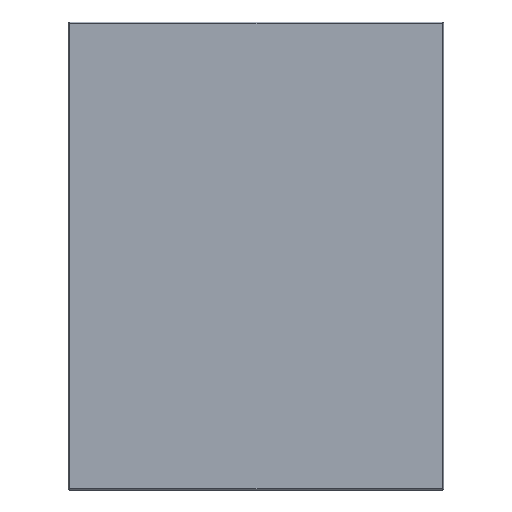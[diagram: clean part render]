
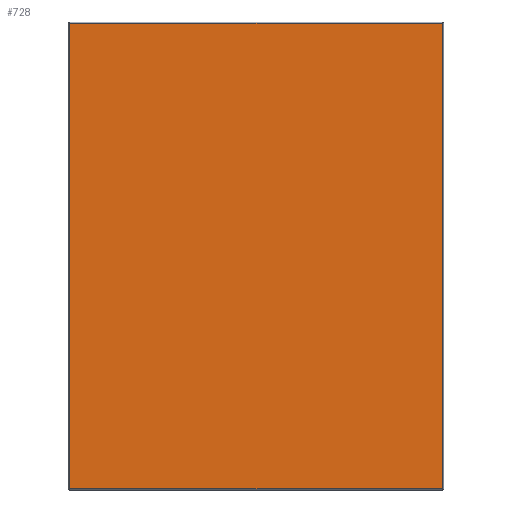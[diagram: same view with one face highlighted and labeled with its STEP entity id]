
A CAD part, front view. The second image highlights one B-rep face of the part: STEP entity #728.
In plain terms, the highlighted planar face has unit normal (0, -1, 0).
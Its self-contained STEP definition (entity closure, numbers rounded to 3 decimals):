
#12 = VERTEX_POINT ( 'NONE', #1517 ) ;
#262 = EDGE_CURVE ( 'NONE', #1633, #1469, #1315, .T. ) ;
#301 = EDGE_CURVE ( 'NONE', #1469, #1732, #714, .T. ) ;
#381 = CARTESIAN_POINT ( 'NONE',  ( 557.263, -1.5, -696.293 ) ) ;
#432 = DIRECTION ( 'NONE',  ( 0., 0., -1. ) ) ;
#463 = CARTESIAN_POINT ( 'NONE',  ( 0.707, -1.5, -696.263 ) ) ;
#483 = ORIENTED_EDGE ( 'NONE', *, *, #301, .T. ) ;
#488 = FACE_OUTER_BOUND ( 'NONE', #1372, .T. ) ;
#597 = CARTESIAN_POINT ( 'NONE',  ( 0.737, -1.5, -696.263 ) ) ;
#613 = LINE ( 'NONE', #381, #638 ) ;
#638 = VECTOR ( 'NONE', #1745, 1000. ) ;
#714 = LINE ( 'NONE', #808, #812 ) ;
#728 = ADVANCED_FACE ( 'NONE', ( #488 ), #1844, .T. ) ;
#744 = EDGE_CURVE ( 'NONE', #1732, #12, #1229, .T. ) ;
#795 = ORIENTED_EDGE ( 'NONE', *, *, #744, .T. ) ;
#808 = CARTESIAN_POINT ( 'NONE',  ( 0.737, -1.5, -0.707 ) ) ;
#812 = VECTOR ( 'NONE', #1420, 1000. ) ;
#909 = CARTESIAN_POINT ( 'NONE',  ( 557.293, -1.5, -0.737 ) ) ;
#923 = CARTESIAN_POINT ( 'NONE',  ( 0., -1.5, 0. ) ) ;
#1090 = DIRECTION ( 'NONE',  ( 0., -1., 0. ) ) ;
#1159 = CARTESIAN_POINT ( 'NONE',  ( 557.263, -1.5, -0.737 ) ) ;
#1229 = LINE ( 'NONE', #463, #1516 ) ;
#1230 = DIRECTION ( 'NONE',  ( -1., 0., 0. ) ) ;
#1260 = VECTOR ( 'NONE', #1230, 1000. ) ;
#1264 = DIRECTION ( 'NONE',  ( 1., 0., 0. ) ) ;
#1295 = EDGE_CURVE ( 'NONE', #12, #1633, #613, .T. ) ;
#1315 = LINE ( 'NONE', #909, #1260 ) ;
#1372 = EDGE_LOOP ( 'NONE', ( #1653, #483, #795, #1613 ) ) ;
#1420 = DIRECTION ( 'NONE',  ( 0., 0., -1. ) ) ;
#1469 = VERTEX_POINT ( 'NONE', #1624 ) ;
#1516 = VECTOR ( 'NONE', #1264, 1000. ) ;
#1517 = CARTESIAN_POINT ( 'NONE',  ( 557.263, -1.5, -696.263 ) ) ;
#1613 = ORIENTED_EDGE ( 'NONE', *, *, #1295, .T. ) ;
#1624 = CARTESIAN_POINT ( 'NONE',  ( 0.737, -1.5, -0.737 ) ) ;
#1633 = VERTEX_POINT ( 'NONE', #1159 ) ;
#1653 = ORIENTED_EDGE ( 'NONE', *, *, #262, .T. ) ;
#1732 = VERTEX_POINT ( 'NONE', #597 ) ;
#1745 = DIRECTION ( 'NONE',  ( 0., 0., 1. ) ) ;
#1843 = AXIS2_PLACEMENT_3D ( 'NONE', #923, #1090, #432 ) ;
#1844 = PLANE ( 'NONE',  #1843 ) ;
